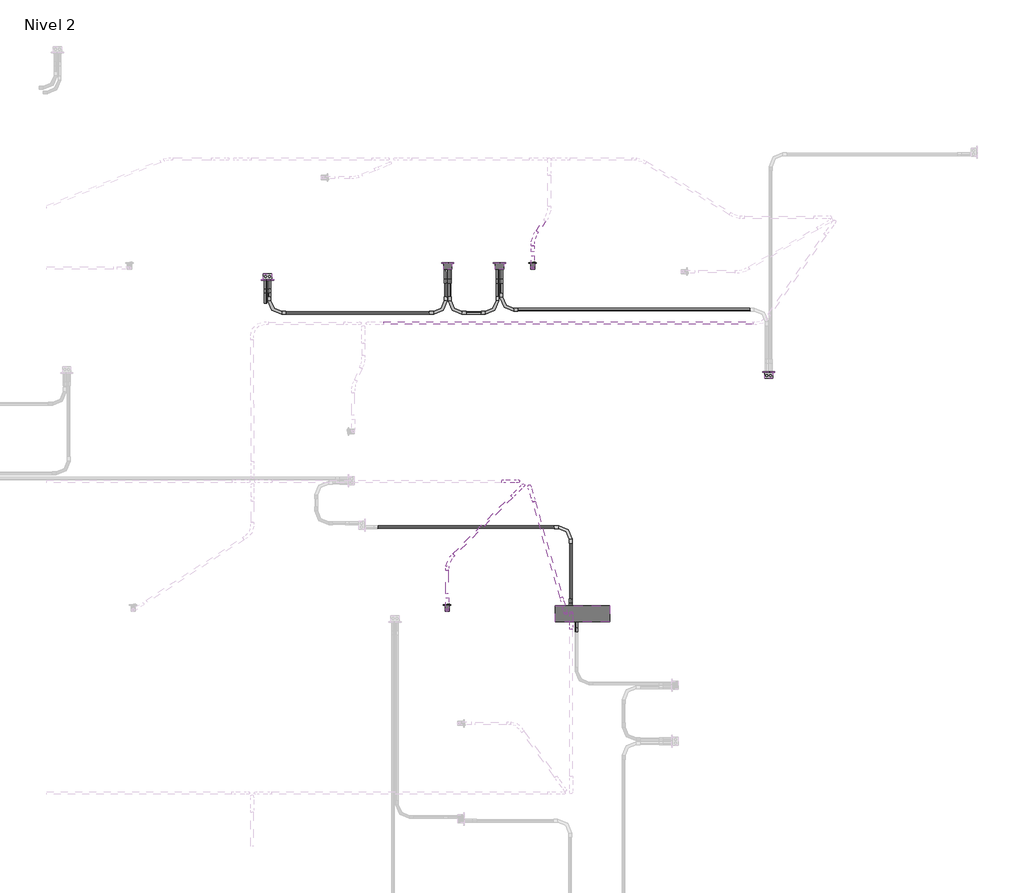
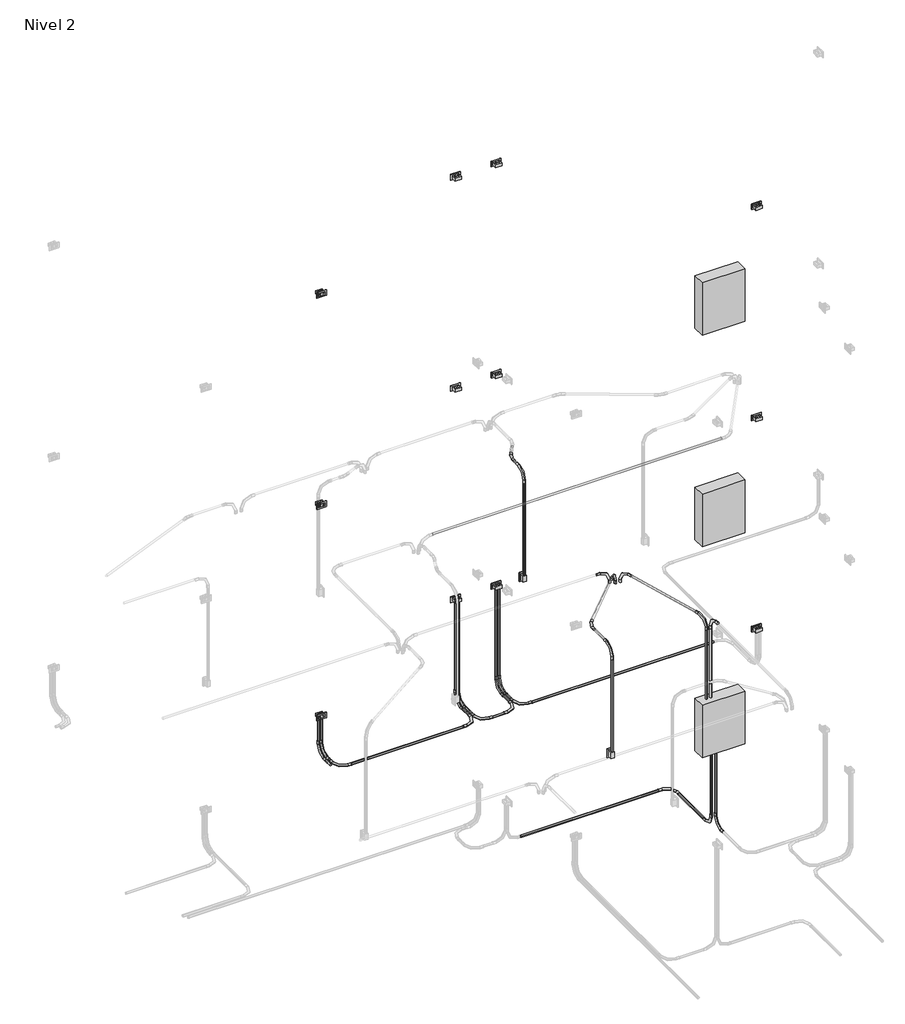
# One storey, part 9 of 10: 29 cable carrier segments, 23 cable carrier fittings, 15 proxies, 2 switching devices.
"""IFC4 building model written with IfcOpenShell, lengths in millimetres."""

from ifc_helpers import new_model, si_unit, point, frame, frame_2d, origin, place, context, project, spatial, circle_curve, trimmed, segment, composite_curve, outline, extrude, transform, mapped, element, save
from components import proxy_125_a_fe578df2, gfci_180f1b41, m_codo_de_tubo_extremo_liso_pvc_9da73e12, m_codo_de_tubo_extremo_liso_pvc_102f0f41, m_codo_de_tubo_extremo_liso_pvc_59586aee, m_codo_de_tubo_extremo_liso_pvc_8d6d9c39, switching_device_22fed34b

model = new_model("IFC4")

# Units and contexts
model_context = context("Model", 3, world=origin())
ifc_project = project(units=[si_unit("LENGTHUNIT", "METRE", prefix="MILLI")], contexts=[model_context])

# Site, building, storey
site = spatial("IfcSite", under=ifc_project)
building = spatial("IfcBuilding", under=site)
storey = spatial("IfcBuildingStorey", under=building, Name="Nivel 2", Elevation=2800.0)

# Proxies
placement = place(None, origin())
proxy_125_a_shape = proxy_125_a_fe578df2(model_context)
element("IfcBuildingElementProxy", 1, Name="M_Cuadro de control de accesorios e iluminación - 480V MLO : 125 A", ObjectType="M_Cuadro de control de accesorios e iluminación - 480V MLO : 125 A", at=placement, inside=storey, context=model_context, shape_type="MappedRepresentation", body=[
    mapped(proxy_125_a_shape, transform((5479.899386, 12215.0, 3626.1274047), x_axis=(1.0, 0.0, 0.0), y_axis=(0.0, 0.0, 1.0), z_axis=(0.0, -1.0, 0.0))),
])
element("IfcBuildingElementProxy", 2, Name="M_Cuadro de control de accesorios e iluminación - 480V MLO : 125 A", ObjectType="M_Cuadro de control de accesorios e iluminación - 480V MLO : 125 A", at=placement, inside=storey, context=model_context, shape_type="MappedRepresentation", body=[
    mapped(proxy_125_a_shape, transform((5479.899386, 12215.0, 6276.1274047), x_axis=(1.0, 0.0, 0.0), y_axis=(0.0, 0.0, 1.0), z_axis=(0.0, -1.0, 0.0))),
])
element("IfcBuildingElementProxy", 3, Name="M_Cuadro de control de accesorios e iluminación - 480V MLO : 125 A", ObjectType="M_Cuadro de control de accesorios e iluminación - 480V MLO : 125 A", at=placement, inside=storey, context=model_context, shape_type="MappedRepresentation", body=[
    mapped(proxy_125_a_shape, transform((5479.899386, 12215.0, 8926.1274047), x_axis=(1.0, 0.0, 0.0), y_axis=(0.0, 0.0, 1.0), z_axis=(0.0, -1.0, 0.0))),
])
gfci_shape = gfci_180f1b41(model_context)
element("IfcBuildingElementProxy", 4, Name="Tomacorriente doble 220V : GFCI", ObjectType="Tomacorriente doble 220V : GFCI", at=placement, inside=storey, context=model_context, shape_type="MappedRepresentation", body=[
    mapped(gfci_shape, transform((2544.4609897, 15400.0, 3200.0), x_axis=(0.0, 0.0, 1.0), y_axis=(-1.0, 0.0, 0.0), z_axis=(0.0, -1.0, 0.0))),
])
element("IfcBuildingElementProxy", 5, Name="Tomacorriente doble 220V : GFCI", ObjectType="Tomacorriente doble 220V : GFCI", at=placement, inside=storey, context=model_context, shape_type="MappedRepresentation", body=[
    mapped(gfci_shape, transform((4223.0510218, 15550.0, 4000.0), x_axis=(0.0, 0.0, 1.0), y_axis=(1.0, 0.0, 0.0), z_axis=(0.0, 1.0, 0.0))),
])
element("IfcBuildingElementProxy", 6, Name="Tomacorriente doble 220V : GFCI", ObjectType="Tomacorriente doble 220V : GFCI", at=placement, inside=storey, context=model_context, shape_type="MappedRepresentation", body=[
    mapped(gfci_shape, transform((4704.917561, 15550.0, 4000.0), x_axis=(0.0, 0.0, 1.0), y_axis=(1.0, 0.0, 0.0), z_axis=(0.0, 1.0, 0.0))),
])
element("IfcBuildingElementProxy", 7, Name="Tomacorriente doble 220V : GFCI", ObjectType="Tomacorriente doble 220V : GFCI", at=placement, inside=storey, context=model_context, shape_type="MappedRepresentation", body=[
    mapped(gfci_shape, transform((7211.3052002, 14535.0, 3200.0), x_axis=(0.0, 0.0, 1.0), y_axis=(1.0, 0.0, 0.0), z_axis=(0.0, 1.0, 0.0))),
])
element("IfcBuildingElementProxy", 8, Name="Tomacorriente doble 220V : GFCI", ObjectType="Tomacorriente doble 220V : GFCI", at=placement, inside=storey, context=model_context, shape_type="MappedRepresentation", body=[
    mapped(gfci_shape, transform((2544.4609897, 15400.0, 5850.0), x_axis=(0.0, 0.0, 1.0), y_axis=(-1.0, 0.0, 0.0), z_axis=(0.0, -1.0, 0.0))),
])
element("IfcBuildingElementProxy", 9, Name="Tomacorriente doble 220V : GFCI", ObjectType="Tomacorriente doble 220V : GFCI", at=placement, inside=storey, context=model_context, shape_type="MappedRepresentation", body=[
    mapped(gfci_shape, transform((4223.0510218, 15550.0, 6650.0), x_axis=(0.0, 0.0, 1.0), y_axis=(1.0, 0.0, 0.0), z_axis=(0.0, 1.0, 0.0))),
])
element("IfcBuildingElementProxy", 10, Name="Tomacorriente doble 220V : GFCI", ObjectType="Tomacorriente doble 220V : GFCI", at=placement, inside=storey, context=model_context, shape_type="MappedRepresentation", body=[
    mapped(gfci_shape, transform((4704.917561, 15550.0, 6650.0), x_axis=(0.0, 0.0, 1.0), y_axis=(1.0, 0.0, 0.0), z_axis=(0.0, 1.0, 0.0))),
])
element("IfcBuildingElementProxy", 11, Name="Tomacorriente doble 220V : GFCI", ObjectType="Tomacorriente doble 220V : GFCI", at=placement, inside=storey, context=model_context, shape_type="MappedRepresentation", body=[
    mapped(gfci_shape, transform((7211.3052002, 14535.0, 5850.0), x_axis=(0.0, 0.0, 1.0), y_axis=(1.0, 0.0, 0.0), z_axis=(0.0, 1.0, 0.0))),
])
element("IfcBuildingElementProxy", 12, Name="Tomacorriente doble 220V : GFCI", ObjectType="Tomacorriente doble 220V : GFCI", at=placement, inside=storey, context=model_context, shape_type="MappedRepresentation", body=[
    mapped(gfci_shape, transform((2544.4609897, 15400.0, 8500.0), x_axis=(0.0, 0.0, 1.0), y_axis=(-1.0, 0.0, 0.0), z_axis=(0.0, -1.0, 0.0))),
])
element("IfcBuildingElementProxy", 13, Name="Tomacorriente doble 220V : GFCI", ObjectType="Tomacorriente doble 220V : GFCI", at=placement, inside=storey, context=model_context, shape_type="MappedRepresentation", body=[
    mapped(gfci_shape, transform((4223.0510218, 15550.0, 9300.0), x_axis=(0.0, 0.0, 1.0), y_axis=(1.0, 0.0, 0.0), z_axis=(0.0, 1.0, 0.0))),
])
element("IfcBuildingElementProxy", 14, Name="Tomacorriente doble 220V : GFCI", ObjectType="Tomacorriente doble 220V : GFCI", at=placement, inside=storey, context=model_context, shape_type="MappedRepresentation", body=[
    mapped(gfci_shape, transform((4704.917561, 15550.0, 9300.0), x_axis=(0.0, 0.0, 1.0), y_axis=(1.0, 0.0, 0.0), z_axis=(0.0, 1.0, 0.0))),
])
element("IfcBuildingElementProxy", 15, Name="Tomacorriente doble 220V : GFCI", ObjectType="Tomacorriente doble 220V : GFCI", at=placement, inside=storey, context=model_context, shape_type="MappedRepresentation", body=[
    mapped(gfci_shape, transform((7211.3052002, 14535.0, 8500.0), x_axis=(0.0, 0.0, 1.0), y_axis=(1.0, 0.0, 0.0), z_axis=(0.0, 1.0, 0.0))),
])

# Cable carrier fittings
m_codo_de_tubo_extremo_liso_pvc_shape = m_codo_de_tubo_extremo_liso_pvc_9da73e12(model_context)
element("IfcCableCarrierFitting", 16, ObjectType="M_Codo de tubo - Extremo liso - PVC : CODO POTENCIA", at=placement, inside=storey, context=model_context, shape_type="MappedRepresentation", body=[
    mapped(m_codo_de_tubo_extremo_liso_pvc_shape, transform((4205.019202, 15520.3628882, 2730.0), x_axis=(0.0, 0.0, -1.0), y_axis=(0.0, -1.0, 0.0), z_axis=(-1.0, 0.0, 0.0))),
])
element("IfcCableCarrierFitting", 17, ObjectType="M_Codo de tubo - Extremo liso - PVC : CODO POTENCIA", at=placement, inside=storey, context=model_context, shape_type="MappedRepresentation", body=[
    mapped(m_codo_de_tubo_extremo_liso_pvc_shape, transform((4241.0828417, 15520.3628882, 2730.0), x_axis=(0.0, 0.0, -1.0), y_axis=(0.0, -1.0, 0.0), z_axis=(-1.0, 0.0, 0.0))),
])
element("IfcCableCarrierFitting", 18, ObjectType="M_Codo de tubo - Extremo liso - PVC : CODO POTENCIA", at=placement, inside=storey, context=model_context, shape_type="MappedRepresentation", body=[
    mapped(m_codo_de_tubo_extremo_liso_pvc_shape, transform((4686.8857412, 15520.3628882, 2730.0), x_axis=(0.0, 0.0, -1.0), y_axis=(0.0, -1.0, 0.0), z_axis=(-1.0, 0.0, 0.0))),
])
element("IfcCableCarrierFitting", 19, ObjectType="M_Codo de tubo - Extremo liso - PVC : CODO POTENCIA", at=placement, inside=storey, context=model_context, shape_type="MappedRepresentation", body=[
    mapped(m_codo_de_tubo_extremo_liso_pvc_shape, transform((4722.9493809, 15520.3628882, 2730.0), x_axis=(0.0, 0.0, -1.0), y_axis=(0.0, -1.0, 0.0), z_axis=(-1.0, 0.0, 0.0))),
])
element("IfcCableCarrierFitting", 20, ObjectType="M_Codo de tubo - Extremo liso - PVC : CODO POTENCIA", at=placement, inside=storey, context=model_context, shape_type="MappedRepresentation", body=[
    mapped(m_codo_de_tubo_extremo_liso_pvc_shape, transform((2562.4928095, 15429.6371118, 2730.0), x_axis=(0.0, 0.0, -1.0), y_axis=(0.0, -1.0, 0.0), z_axis=(-1.0, 0.0, 0.0))),
])
element("IfcCableCarrierFitting", 21, ObjectType="M_Codo de tubo - Extremo liso - PVC : CODO POTENCIA", at=placement, inside=storey, context=model_context, shape_type="MappedRepresentation", body=[
    mapped(m_codo_de_tubo_extremo_liso_pvc_shape, transform((2526.4291699, 15429.6371118, 2730.0), x_axis=(0.0, 0.0, -1.0), y_axis=(0.0, -1.0, 0.0), z_axis=(-1.0, 0.0, 0.0))),
])
element("IfcCableCarrierFitting", 22, ObjectType="M_Codo de tubo - Extremo liso - PVC : CODO POTENCIA", at=placement, inside=storey, context=model_context, shape_type="MappedRepresentation", body=[
    mapped(m_codo_de_tubo_extremo_liso_pvc_shape, transform((4205.019202, 15089.6371118, 2730.0), x_axis=(1.0, 0.0, 0.0), y_axis=(0.0, 1.0, 0.0), z_axis=(0.0, 0.0, 1.0))),
])
element("IfcCableCarrierFitting", 23, ObjectType="M_Codo de tubo - Extremo liso - PVC : CODO POTENCIA", at=placement, inside=storey, context=model_context, shape_type="MappedRepresentation", body=[
    mapped(m_codo_de_tubo_extremo_liso_pvc_shape, transform((2562.4928095, 15089.6371118, 2730.0), x_axis=(0.0, -1.0, 0.0), y_axis=(1.0, 0.0, 0.0), z_axis=(0.0, 0.0, 1.0))),
])
element("IfcCableCarrierFitting", 24, ObjectType="M_Codo de tubo - Extremo liso - PVC : CODO POTENCIA", at=placement, inside=storey, context=model_context, shape_type="MappedRepresentation", body=[
    mapped(m_codo_de_tubo_extremo_liso_pvc_shape, transform((4686.8857412, 15089.6371118, 2730.0), x_axis=(1.0, 0.0, 0.0), y_axis=(0.0, 1.0, 0.0), z_axis=(0.0, 0.0, 1.0))),
])
element("IfcCableCarrierFitting", 25, ObjectType="M_Codo de tubo - Extremo liso - PVC : CODO POTENCIA", at=placement, inside=storey, context=model_context, shape_type="MappedRepresentation", body=[
    mapped(m_codo_de_tubo_extremo_liso_pvc_shape, transform((4241.0828417, 15089.6371118, 2730.0), x_axis=(0.0, -1.0, 0.0), y_axis=(1.0, 0.0, 0.0), z_axis=(0.0, 0.0, 1.0))),
])
element("IfcCableCarrierFitting", 26, ObjectType="M_Codo de tubo - Extremo liso - PVC : CODO POTENCIA", at=placement, inside=storey, context=model_context, shape_type="MappedRepresentation", body=[
    mapped(m_codo_de_tubo_extremo_liso_pvc_shape, transform((4722.9493809, 15120.3628882, 2730.0), x_axis=(0.0, -1.0, 0.0), y_axis=(1.0, 0.0, 0.0), z_axis=(0.0, 0.0, 1.0))),
])
element("IfcCableCarrierFitting", 27, ObjectType="M_Codo de tubo - Extremo liso - PVC : CODO POTENCIA", at=placement, inside=storey, context=model_context, shape_type="MappedRepresentation", body=[
    mapped(m_codo_de_tubo_extremo_liso_pvc_shape, transform((5369.121413, 13095.2791789, 2730.0), x_axis=(0.0, 1.0, 0.0), y_axis=(-1.0, 0.0, 0.0), z_axis=(0.0, 0.0, 1.0))),
])
element("IfcCableCarrierFitting", 28, ObjectType="M_Codo de tubo - Extremo liso - PVC : CODO POTENCIA", at=placement, inside=storey, context=model_context, shape_type="MappedRepresentation", body=[
    mapped(m_codo_de_tubo_extremo_liso_pvc_shape, transform((5369.121413, 12274.3432469, 2730.0), x_axis=(0.0, -1.0, 0.0), y_axis=(0.0, 0.0, 1.0), z_axis=(-1.0, 0.0, 0.0))),
])
element("IfcCableCarrierFitting", 29, ObjectType="M_Codo de tubo - Extremo liso - PVC : CODO POTENCIA", at=placement, inside=storey, context=model_context, shape_type="MappedRepresentation", body=[
    mapped(m_codo_de_tubo_extremo_liso_pvc_shape, transform((5421.447338, 12274.3432469, 2730.0), x_axis=(0.0, 1.0, 0.0), y_axis=(0.0, 0.0, 1.0), z_axis=(1.0, 0.0, 0.0))),
])
element("IfcCableCarrierFitting", 30, ObjectType="M_Codo de tubo - Extremo liso - PVC : CODO ILUMINACION", at=placement, inside=storey, context=model_context, shape_type="MappedRepresentation", body=[
    mapped(m_codo_de_tubo_extremo_liso_pvc_shape, transform((5014.6923036, 15506.8611243, 5350.0), x_axis=(0.0, 0.0, 1.0), y_axis=(0.0, 1.0, 0.0), z_axis=(-1.0, 0.0, 0.0))),
])
element("IfcCableCarrierFitting", 31, ObjectType="M_Codo de tubo - Extremo liso - PVC : CODO ILUMINACION", at=placement, inside=storey, context=model_context, shape_type="MappedRepresentation", body=[
    mapped(m_codo_de_tubo_extremo_liso_pvc_shape, transform((4983.2376641, 13478.0991033, 5350.0), x_axis=(-0.27563735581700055, 0.9612616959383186, 0.0), y_axis=(0.0, 0.0, -1.0000000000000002), z_axis=(-0.9612616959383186, -0.27563735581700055, 0.0))),
])
element("IfcCableCarrierFitting", 32, ObjectType="M_Codo de tubo - Extremo liso - PVC : CODO ILUMINACION", at=placement, inside=storey, context=model_context, shape_type="MappedRepresentation", body=[
    mapped(m_codo_de_tubo_extremo_liso_pvc_shape, transform((4926.5703208, 13485.4270766, 5350.0), x_axis=(0.7071067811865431, 0.707106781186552, 0.0), y_axis=(0.0, 0.0, -1.0), z_axis=(-0.707106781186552, 0.7071067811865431, 0.0))),
])
element("IfcCableCarrierFitting", 33, ObjectType="M_Codo de tubo - Extremo liso - PVC : CODO ILUMINACION", at=placement, inside=storey, context=model_context, shape_type="MappedRepresentation", body=[
    mapped(m_codo_de_tubo_extremo_liso_pvc_shape, transform((5322.9331414, 12293.4401892, 5350.0), x_axis=(0.2756373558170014, -0.9612616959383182, 0.0), y_axis=(0.0, 0.0, -1.0), z_axis=(0.9612616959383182, 0.2756373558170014, 0.0))),
])
element("IfcCableCarrierFitting", 34, ObjectType="M_Codo de tubo - Extremo liso - PVC : CODO ILUMINACION", at=placement, inside=storey, context=model_context, shape_type="MappedRepresentation", body=[
    mapped(m_codo_de_tubo_extremo_liso_pvc_shape, transform((4218.3978911, 12321.8611243, 5350.0), x_axis=(0.0, 0.0, 1.0), y_axis=(0.0, 1.0, 0.0), z_axis=(-1.0, 0.0, 0.0))),
])
element("IfcCableCarrierFitting", 35, ObjectType="M_Codo de tubo - Extremo liso - PVC : CODO ILUMINACION", at=placement, inside=storey, context=model_context, shape_type="MappedRepresentation", body=[
    mapped(m_codo_de_tubo_extremo_liso_pvc_shape, transform((5372.6243482, 12295.9653349, 5350.0), x_axis=(0.0, 1.0, 0.0), y_axis=(0.0, 0.0, -1.0), z_axis=(-1.0, 0.0, 0.0))),
])
m_codo_de_tubo_extremo_liso_pvc_2_shape = m_codo_de_tubo_extremo_liso_pvc_102f0f41(model_context)
element("IfcCableCarrierFitting", 36, ObjectType="M_Codo de tubo - Extremo liso - PVC : CODO ILUMINACION", at=placement, inside=storey, context=model_context, shape_type="MappedRepresentation", body=[
    mapped(m_codo_de_tubo_extremo_liso_pvc_2_shape, transform((4879.8406576, 13521.2601744, 5350.0), x_axis=(1.0, 0.0, 0.0), y_axis=(0.0, 0.0, 1.0), z_axis=(0.0, -1.0, 0.0))),
])
m_codo_de_tubo_extremo_liso_pvc_3_shape = m_codo_de_tubo_extremo_liso_pvc_59586aee(model_context)
element("IfcCableCarrierFitting", 37, ObjectType="M_Codo de tubo - Extremo liso - PVC : CODO ILUMINACION", at=placement, inside=storey, context=model_context, shape_type="MappedRepresentation", body=[
    mapped(m_codo_de_tubo_extremo_liso_pvc_3_shape, transform((5014.6923036, 15786.8611243, 5350.0), x_axis=(-0.5679095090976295, -0.8230909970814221, 0.0), y_axis=(0.8230909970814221, -0.5679095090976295, 0.0), z_axis=(0.0, 0.0, 1.0))),
])
m_codo_de_tubo_extremo_liso_pvc_4_shape = m_codo_de_tubo_extremo_liso_pvc_8d6d9c39(model_context)
element("IfcCableCarrierFitting", 38, ObjectType="M_Codo de tubo - Extremo liso - PVC : CODO ILUMINACION", at=placement, inside=storey, context=model_context, shape_type="MappedRepresentation", body=[
    mapped(m_codo_de_tubo_extremo_liso_pvc_4_shape, transform((4218.3978911, 12777.2546469, 5350.0), x_axis=(-0.7071067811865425, -0.7071067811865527, 0.0), y_axis=(0.7071067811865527, -0.7071067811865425, 0.0), z_axis=(0.0, 0.0, 1.0))),
])

# Cable carrier segments
element("IfcCableCarrierSegment", 39, ObjectType="PVC-SEL, POTENCIA", at=placement, inside=storey, context=model_context, shape_type="SweptSolid", body=[
    extrude(outline(composite_curve([segment(trimmed(circle_curve(frame_2d((2730.0, 4205.019202)), 11.71), [point((2730.0, 4193.309202))], [point((2718.29, 4205.019202))], False, "CARTESIAN"), True, "CONTINUOUS"), segment(trimmed(circle_curve(frame_2d((2730.0, 4205.019202)), 11.71), [point((2718.29, 4205.019202))], [point((2730.0, 4216.729202))], False, "CARTESIAN"), True, "CONTINUOUS"), segment(trimmed(circle_curve(frame_2d((2730.0, 4205.019202)), 11.71), [point((2730.0, 4216.729202))], [point((2741.71, 4205.019202))], False, "CARTESIAN"), True, "CONTINUOUS"), segment(trimmed(circle_curve(frame_2d((2730.0, 4205.019202)), 11.71), [point((2741.71, 4205.019202))], [point((2730.0, 4193.309202))], False, "CARTESIAN"), True, "CONTINUOUS")], self_intersect=False)), frame((0.0, 15242.0371118, 0.0), z_axis=(0.0, 1.0, 0.0), x_axis=(0.0, 0.0, 1.0)), (0.0, 0.0, 1.0), 125.9257764),
])
element("IfcCableCarrierSegment", 40, ObjectType="PVC-SEL, POTENCIA", at=placement, inside=storey, context=model_context, shape_type="SweptSolid", body=[
    extrude(outline(composite_curve([segment(trimmed(circle_curve(frame_2d((4205.019202, 15520.3628882)), 11.71), [point((4216.729202, 15520.3628882))], [point((4205.019202, 15508.6528882))], False, "CARTESIAN"), True, "CONTINUOUS"), segment(trimmed(circle_curve(frame_2d((4205.019202, 15520.3628882)), 11.71), [point((4205.019202, 15508.6528882))], [point((4193.309202, 15520.3628882))], False, "CARTESIAN"), True, "CONTINUOUS"), segment(trimmed(circle_curve(frame_2d((4205.019202, 15520.3628882)), 11.71), [point((4193.309202, 15520.3628882))], [point((4205.019202, 15532.0728882))], False, "CARTESIAN"), True, "CONTINUOUS"), segment(trimmed(circle_curve(frame_2d((4205.019202, 15520.3628882)), 11.71), [point((4205.019202, 15532.0728882))], [point((4216.729202, 15520.3628882))], False, "CARTESIAN"), True, "CONTINUOUS")], self_intersect=False)), frame((0.0, 0.0, 2882.4), z_axis=(0.0, 0.0, 1.0), x_axis=(1.0, 0.0, 0.0)), (0.0, 0.0, 1.0), 1097.3020537),
])
element("IfcCableCarrierSegment", 41, ObjectType="PVC-SEL, POTENCIA", at=placement, inside=storey, context=model_context, shape_type="SweptSolid", body=[
    extrude(outline(composite_curve([segment(trimmed(circle_curve(frame_2d((2730.0, 4241.0828417)), 11.71), [point((2730.0, 4229.3728417))], [point((2718.29, 4241.0828417))], False, "CARTESIAN"), True, "CONTINUOUS"), segment(trimmed(circle_curve(frame_2d((2730.0, 4241.0828417)), 11.71), [point((2718.29, 4241.0828417))], [point((2730.0, 4252.7928417))], False, "CARTESIAN"), True, "CONTINUOUS"), segment(trimmed(circle_curve(frame_2d((2730.0, 4241.0828417)), 11.71), [point((2730.0, 4252.7928417))], [point((2741.71, 4241.0828417))], False, "CARTESIAN"), True, "CONTINUOUS"), segment(trimmed(circle_curve(frame_2d((2730.0, 4241.0828417)), 11.71), [point((2741.71, 4241.0828417))], [point((2730.0, 4229.3728417))], False, "CARTESIAN"), True, "CONTINUOUS")], self_intersect=False)), frame((0.0, 15242.0371118, 0.0), z_axis=(0.0, 1.0, 0.0), x_axis=(0.0, 0.0, 1.0)), (0.0, 0.0, 1.0), 125.9257764),
])
element("IfcCableCarrierSegment", 42, ObjectType="PVC-SEL, POTENCIA", at=placement, inside=storey, context=model_context, shape_type="SweptSolid", body=[
    extrude(outline(composite_curve([segment(trimmed(circle_curve(frame_2d((4241.0828417, 15520.3628882)), 11.71), [point((4252.7928417, 15520.3628882))], [point((4241.0828417, 15508.6528882))], False, "CARTESIAN"), True, "CONTINUOUS"), segment(trimmed(circle_curve(frame_2d((4241.0828417, 15520.3628882)), 11.71), [point((4241.0828417, 15508.6528882))], [point((4229.3728417, 15520.3628882))], False, "CARTESIAN"), True, "CONTINUOUS"), segment(trimmed(circle_curve(frame_2d((4241.0828417, 15520.3628882)), 11.71), [point((4229.3728417, 15520.3628882))], [point((4241.0828417, 15532.0728882))], False, "CARTESIAN"), True, "CONTINUOUS"), segment(trimmed(circle_curve(frame_2d((4241.0828417, 15520.3628882)), 11.71), [point((4241.0828417, 15532.0728882))], [point((4252.7928417, 15520.3628882))], False, "CARTESIAN"), True, "CONTINUOUS")], self_intersect=False)), frame((0.0, 0.0, 2882.4), z_axis=(0.0, 0.0, 1.0), x_axis=(1.0, 0.0, 0.0)), (0.0, 0.0, 1.0), 1097.3020537),
])
element("IfcCableCarrierSegment", 43, ObjectType="PVC-SEL, POTENCIA", at=placement, inside=storey, context=model_context, shape_type="SweptSolid", body=[
    extrude(outline(composite_curve([segment(trimmed(circle_curve(frame_2d((2730.0, 4686.8857412)), 11.71), [point((2730.0, 4675.1757412))], [point((2718.29, 4686.8857412))], False, "CARTESIAN"), True, "CONTINUOUS"), segment(trimmed(circle_curve(frame_2d((2730.0, 4686.8857412)), 11.71), [point((2718.29, 4686.8857412))], [point((2730.0, 4698.5957412))], False, "CARTESIAN"), True, "CONTINUOUS"), segment(trimmed(circle_curve(frame_2d((2730.0, 4686.8857412)), 11.71), [point((2730.0, 4698.5957412))], [point((2741.71, 4686.8857412))], False, "CARTESIAN"), True, "CONTINUOUS"), segment(trimmed(circle_curve(frame_2d((2730.0, 4686.8857412)), 11.71), [point((2741.71, 4686.8857412))], [point((2730.0, 4675.1757412))], False, "CARTESIAN"), True, "CONTINUOUS")], self_intersect=False)), frame((0.0, 15242.0371118, 0.0), z_axis=(0.0, 1.0, 0.0), x_axis=(0.0, 0.0, 1.0)), (0.0, 0.0, 1.0), 125.9257764),
])
element("IfcCableCarrierSegment", 44, ObjectType="PVC-SEL, POTENCIA", at=placement, inside=storey, context=model_context, shape_type="SweptSolid", body=[
    extrude(outline(composite_curve([segment(trimmed(circle_curve(frame_2d((4686.8857412, 15520.3628882)), 11.71), [point((4698.5957412, 15520.3628882))], [point((4686.8857412, 15508.6528882))], False, "CARTESIAN"), True, "CONTINUOUS"), segment(trimmed(circle_curve(frame_2d((4686.8857412, 15520.3628882)), 11.71), [point((4686.8857412, 15508.6528882))], [point((4675.1757412, 15520.3628882))], False, "CARTESIAN"), True, "CONTINUOUS"), segment(trimmed(circle_curve(frame_2d((4686.8857412, 15520.3628882)), 11.71), [point((4675.1757412, 15520.3628882))], [point((4686.8857412, 15532.0728882))], False, "CARTESIAN"), True, "CONTINUOUS"), segment(trimmed(circle_curve(frame_2d((4686.8857412, 15520.3628882)), 11.71), [point((4686.8857412, 15532.0728882))], [point((4698.5957412, 15520.3628882))], False, "CARTESIAN"), True, "CONTINUOUS")], self_intersect=False)), frame((0.0, 0.0, 2882.4), z_axis=(0.0, 0.0, 1.0), x_axis=(1.0, 0.0, 0.0)), (0.0, 0.0, 1.0), 1097.3020537),
])
element("IfcCableCarrierSegment", 45, ObjectType="PVC-SEL, POTENCIA", at=placement, inside=storey, context=model_context, shape_type="SweptSolid", body=[
    extrude(outline(composite_curve([segment(trimmed(circle_curve(frame_2d((2730.0, 4722.9493809)), 11.71), [point((2730.0, 4711.2393809))], [point((2718.29, 4722.9493809))], False, "CARTESIAN"), True, "CONTINUOUS"), segment(trimmed(circle_curve(frame_2d((2730.0, 4722.9493809)), 11.71), [point((2718.29, 4722.9493809))], [point((2730.0, 4734.6593809))], False, "CARTESIAN"), True, "CONTINUOUS"), segment(trimmed(circle_curve(frame_2d((2730.0, 4722.9493809)), 11.71), [point((2730.0, 4734.6593809))], [point((2741.71, 4722.9493809))], False, "CARTESIAN"), True, "CONTINUOUS"), segment(trimmed(circle_curve(frame_2d((2730.0, 4722.9493809)), 11.71), [point((2741.71, 4722.9493809))], [point((2730.0, 4711.2393809))], False, "CARTESIAN"), True, "CONTINUOUS")], self_intersect=False)), frame((0.0, 15272.7628882, 0.0), z_axis=(0.0, 1.0, 0.0), x_axis=(0.0, 0.0, 1.0)), (0.0, 0.0, 1.0), 95.2),
])
element("IfcCableCarrierSegment", 46, ObjectType="PVC-SEL, POTENCIA", at=placement, inside=storey, context=model_context, shape_type="SweptSolid", body=[
    extrude(outline(composite_curve([segment(trimmed(circle_curve(frame_2d((4722.9493809, 15520.3628882)), 11.71), [point((4734.6593809, 15520.3628882))], [point((4722.9493809, 15508.6528882))], False, "CARTESIAN"), True, "CONTINUOUS"), segment(trimmed(circle_curve(frame_2d((4722.9493809, 15520.3628882)), 11.71), [point((4722.9493809, 15508.6528882))], [point((4711.2393809, 15520.3628882))], False, "CARTESIAN"), True, "CONTINUOUS"), segment(trimmed(circle_curve(frame_2d((4722.9493809, 15520.3628882)), 11.71), [point((4711.2393809, 15520.3628882))], [point((4722.9493809, 15532.0728882))], False, "CARTESIAN"), True, "CONTINUOUS"), segment(trimmed(circle_curve(frame_2d((4722.9493809, 15520.3628882)), 11.71), [point((4722.9493809, 15532.0728882))], [point((4734.6593809, 15520.3628882))], False, "CARTESIAN"), True, "CONTINUOUS")], self_intersect=False)), frame((0.0, 0.0, 2882.4), z_axis=(0.0, 0.0, 1.0), x_axis=(1.0, 0.0, 0.0)), (0.0, 0.0, 1.0), 1097.3020537),
])
element("IfcCableCarrierSegment", 47, ObjectType="PVC-SEL, POTENCIA", at=placement, inside=storey, context=model_context, shape_type="SweptSolid", body=[
    extrude(outline(composite_curve([segment(trimmed(circle_curve(frame_2d((2730.0, 2562.4928095)), 11.71), [point((2730.0, 2550.7828095))], [point((2718.29, 2562.4928095))], False, "CARTESIAN"), True, "CONTINUOUS"), segment(trimmed(circle_curve(frame_2d((2730.0, 2562.4928095)), 11.71), [point((2718.29, 2562.4928095))], [point((2730.0, 2574.2028095))], False, "CARTESIAN"), True, "CONTINUOUS"), segment(trimmed(circle_curve(frame_2d((2730.0, 2562.4928095)), 11.71), [point((2730.0, 2574.2028095))], [point((2741.71, 2562.4928095))], False, "CARTESIAN"), True, "CONTINUOUS"), segment(trimmed(circle_curve(frame_2d((2730.0, 2562.4928095)), 11.71), [point((2741.71, 2562.4928095))], [point((2730.0, 2550.7828095))], False, "CARTESIAN"), True, "CONTINUOUS")], self_intersect=False)), frame((0.0, 15242.0371118, 0.0), z_axis=(0.0, 1.0, 0.0), x_axis=(0.0, 0.0, 1.0)), (0.0, 0.0, 1.0), 35.2),
])
element("IfcCableCarrierSegment", 48, ObjectType="PVC-SEL, POTENCIA", at=placement, inside=storey, context=model_context, shape_type="SweptSolid", body=[
    extrude(outline(composite_curve([segment(trimmed(circle_curve(frame_2d((2562.4928095, 15429.6371118)), 11.71), [point((2574.2028095, 15429.6371118))], [point((2562.4928095, 15417.9271118))], False, "CARTESIAN"), True, "CONTINUOUS"), segment(trimmed(circle_curve(frame_2d((2562.4928095, 15429.6371118)), 11.71), [point((2562.4928095, 15417.9271118))], [point((2550.7828095, 15429.6371118))], False, "CARTESIAN"), True, "CONTINUOUS"), segment(trimmed(circle_curve(frame_2d((2562.4928095, 15429.6371118)), 11.71), [point((2550.7828095, 15429.6371118))], [point((2562.4928095, 15441.3471118))], False, "CARTESIAN"), True, "CONTINUOUS"), segment(trimmed(circle_curve(frame_2d((2562.4928095, 15429.6371118)), 11.71), [point((2562.4928095, 15441.3471118))], [point((2574.2028095, 15429.6371118))], False, "CARTESIAN"), True, "CONTINUOUS")], self_intersect=False)), frame((0.0, 0.0, 2882.4), z_axis=(0.0, 0.0, 1.0), x_axis=(1.0, 0.0, 0.0)), (0.0, 0.0, 1.0), 297.3020537),
])
element("IfcCableCarrierSegment", 49, ObjectType="PVC-SEL, POTENCIA", at=placement, inside=storey, context=model_context, shape_type="SweptSolid", body=[
    extrude(outline(composite_curve([segment(trimmed(circle_curve(frame_2d((2730.0, 2526.4291699)), 11.71), [point((2730.0, 2514.7191699))], [point((2718.29, 2526.4291699))], False, "CARTESIAN"), True, "CONTINUOUS"), segment(trimmed(circle_curve(frame_2d((2730.0, 2526.4291699)), 11.71), [point((2718.29, 2526.4291699))], [point((2730.0, 2538.1391699))], False, "CARTESIAN"), True, "CONTINUOUS"), segment(trimmed(circle_curve(frame_2d((2730.0, 2526.4291699)), 11.71), [point((2730.0, 2538.1391699))], [point((2741.71, 2526.4291699))], False, "CARTESIAN"), True, "CONTINUOUS"), segment(trimmed(circle_curve(frame_2d((2730.0, 2526.4291699)), 11.71), [point((2741.71, 2526.4291699))], [point((2730.0, 2514.7191699))], False, "CARTESIAN"), True, "CONTINUOUS")], self_intersect=False)), frame((0.0, 15179.6371118, 0.0), z_axis=(0.0, 1.0, 0.0), x_axis=(0.0, 0.0, 1.0)), (0.0, 0.0, 1.0), 97.6),
])
element("IfcCableCarrierSegment", 50, ObjectType="PVC-SEL, POTENCIA", at=placement, inside=storey, context=model_context, shape_type="SweptSolid", body=[
    extrude(outline(composite_curve([segment(trimmed(circle_curve(frame_2d((2526.4291699, 15429.6371118)), 11.71), [point((2538.1391699, 15429.6371118))], [point((2526.4291699, 15417.9271118))], False, "CARTESIAN"), True, "CONTINUOUS"), segment(trimmed(circle_curve(frame_2d((2526.4291699, 15429.6371118)), 11.71), [point((2526.4291699, 15417.9271118))], [point((2514.7191699, 15429.6371118))], False, "CARTESIAN"), True, "CONTINUOUS"), segment(trimmed(circle_curve(frame_2d((2526.4291699, 15429.6371118)), 11.71), [point((2514.7191699, 15429.6371118))], [point((2526.4291699, 15441.3471118))], False, "CARTESIAN"), True, "CONTINUOUS"), segment(trimmed(circle_curve(frame_2d((2526.4291699, 15429.6371118)), 11.71), [point((2526.4291699, 15441.3471118))], [point((2538.1391699, 15429.6371118))], False, "CARTESIAN"), True, "CONTINUOUS")], self_intersect=False)), frame((0.0, 0.0, 2882.4), z_axis=(0.0, 0.0, 1.0), x_axis=(1.0, 0.0, 0.0)), (0.0, 0.0, 1.0), 297.3020537),
])
element("IfcCableCarrierSegment", 51, ObjectType="PVC-SEL, POTENCIA", at=placement, inside=storey, context=model_context, shape_type="SweptSolid", body=[
    extrude(outline(composite_curve([segment(trimmed(circle_curve(frame_2d((15089.6371118, 2730.0)), 11.71), [point((15101.3471118, 2730.0))], [point((15089.6371118, 2718.29))], False, "CARTESIAN"), True, "CONTINUOUS"), segment(trimmed(circle_curve(frame_2d((15089.6371118, 2730.0)), 11.71), [point((15089.6371118, 2718.29))], [point((15077.9271118, 2730.0))], False, "CARTESIAN"), True, "CONTINUOUS"), segment(trimmed(circle_curve(frame_2d((15089.6371118, 2730.0)), 11.71), [point((15077.9271118, 2730.0))], [point((15089.6371118, 2741.71))], False, "CARTESIAN"), True, "CONTINUOUS"), segment(trimmed(circle_curve(frame_2d((15089.6371118, 2730.0)), 11.71), [point((15089.6371118, 2741.71))], [point((15101.3471118, 2730.0))], False, "CARTESIAN"), True, "CONTINUOUS")], self_intersect=False)), frame((2714.8928095, 0.0, 0.0), z_axis=(1.0, 0.0, 0.0), x_axis=(0.0, 1.0, 0.0)), (0.0, 0.0, 1.0), 1337.7263925),
])
element("IfcCableCarrierSegment", 52, ObjectType="PVC-SEL, POTENCIA", at=placement, inside=storey, context=model_context, shape_type="SweptSolid", body=[
    extrude(outline(composite_curve([segment(trimmed(circle_curve(frame_2d((15089.6371118, 2730.0)), 11.71), [point((15101.3471118, 2730.0))], [point((15089.6371118, 2718.29))], False, "CARTESIAN"), True, "CONTINUOUS"), segment(trimmed(circle_curve(frame_2d((15089.6371118, 2730.0)), 11.71), [point((15089.6371118, 2718.29))], [point((15077.9271118, 2730.0))], False, "CARTESIAN"), True, "CONTINUOUS"), segment(trimmed(circle_curve(frame_2d((15089.6371118, 2730.0)), 11.71), [point((15077.9271118, 2730.0))], [point((15089.6371118, 2741.71))], False, "CARTESIAN"), True, "CONTINUOUS"), segment(trimmed(circle_curve(frame_2d((15089.6371118, 2730.0)), 11.71), [point((15089.6371118, 2741.71))], [point((15101.3471118, 2730.0))], False, "CARTESIAN"), True, "CONTINUOUS")], self_intersect=False)), frame((4393.4828417, 0.0, 0.0), z_axis=(1.0, 0.0, 0.0), x_axis=(0.0, 1.0, 0.0)), (0.0, 0.0, 1.0), 141.0028996),
])
element("IfcCableCarrierSegment", 53, ObjectType="PVC-SEL, POTENCIA", at=placement, inside=storey, context=model_context, shape_type="SweptSolid", body=[
    extrude(outline(composite_curve([segment(trimmed(circle_curve(frame_2d((15120.3628882, 2730.0)), 11.71), [point((15132.0728882, 2730.0))], [point((15120.3628882, 2718.29))], False, "CARTESIAN"), True, "CONTINUOUS"), segment(trimmed(circle_curve(frame_2d((15120.3628882, 2730.0)), 11.71), [point((15120.3628882, 2718.29))], [point((15108.6528882, 2730.0))], False, "CARTESIAN"), True, "CONTINUOUS"), segment(trimmed(circle_curve(frame_2d((15120.3628882, 2730.0)), 11.71), [point((15108.6528882, 2730.0))], [point((15120.3628882, 2741.71))], False, "CARTESIAN"), True, "CONTINUOUS"), segment(trimmed(circle_curve(frame_2d((15120.3628882, 2730.0)), 11.71), [point((15120.3628882, 2741.71))], [point((15132.0728882, 2730.0))], False, "CARTESIAN"), True, "CONTINUOUS")], self_intersect=False)), frame((4875.3493809, 0.0, 0.0), z_axis=(1.0, 0.0, 0.0), x_axis=(0.0, 1.0, 0.0)), (0.0, 0.0, 1.0), 2165.5239995),
])
element("IfcCableCarrierSegment", 54, ObjectType="PVC-SEL, POTENCIA", at=placement, inside=storey, context=model_context, shape_type="SweptSolid", body=[
    extrude(outline(composite_curve([segment(trimmed(circle_curve(frame_2d((13095.2791789, 2730.0)), 11.71), [point((13083.5691789, 2730.0))], [point((13095.2791789, 2741.71))], False, "CARTESIAN"), True, "CONTINUOUS"), segment(trimmed(circle_curve(frame_2d((13095.2791789, 2730.0)), 11.71), [point((13095.2791789, 2741.71))], [point((13106.9891789, 2730.0))], False, "CARTESIAN"), True, "CONTINUOUS"), segment(trimmed(circle_curve(frame_2d((13095.2791789, 2730.0)), 11.71), [point((13106.9891789, 2730.0))], [point((13095.2791789, 2718.29))], False, "CARTESIAN"), True, "CONTINUOUS"), segment(trimmed(circle_curve(frame_2d((13095.2791789, 2730.0)), 11.71), [point((13095.2791789, 2718.29))], [point((13083.5691789, 2730.0))], False, "CARTESIAN"), True, "CONTINUOUS")], self_intersect=False)), frame((3572.763469, 0.0, 0.0), z_axis=(1.0, 0.0, 0.0), x_axis=(0.0, 1.0, 0.0)), (0.0, 0.0, 1.0), 1643.957944),
])
element("IfcCableCarrierSegment", 55, ObjectType="PVC-SEL, POTENCIA", at=placement, inside=storey, context=model_context, shape_type="SweptSolid", body=[
    extrude(outline(composite_curve([segment(trimmed(circle_curve(frame_2d((2730.0, 5369.121413)), 11.71), [point((2730.0, 5357.411413))], [point((2718.29, 5369.121413))], False, "CARTESIAN"), True, "CONTINUOUS"), segment(trimmed(circle_curve(frame_2d((2730.0, 5369.121413)), 11.71), [point((2718.29, 5369.121413))], [point((2730.0, 5380.831413))], False, "CARTESIAN"), True, "CONTINUOUS"), segment(trimmed(circle_curve(frame_2d((2730.0, 5369.121413)), 11.71), [point((2730.0, 5380.831413))], [point((2741.71, 5369.121413))], False, "CARTESIAN"), True, "CONTINUOUS"), segment(trimmed(circle_curve(frame_2d((2730.0, 5369.121413)), 11.71), [point((2741.71, 5369.121413))], [point((2730.0, 5357.411413))], False, "CARTESIAN"), True, "CONTINUOUS")], self_intersect=False)), frame((0.0, 12426.7432469, 0.0), z_axis=(0.0, 1.0, 0.0), x_axis=(0.0, 0.0, 1.0)), (0.0, 0.0, 1.0), 516.135932),
])
element("IfcCableCarrierSegment", 56, ObjectType="PVC-SEL, POTENCIA", at=placement, inside=storey, context=model_context, shape_type="SweptSolid", body=[
    extrude(outline(composite_curve([segment(trimmed(circle_curve(frame_2d((5369.121413, 12274.3432469)), 11.71), [point((5357.411413, 12274.3432469))], [point((5369.121413, 12286.0532469))], False, "CARTESIAN"), True, "CONTINUOUS"), segment(trimmed(circle_curve(frame_2d((5369.121413, 12274.3432469)), 11.71), [point((5369.121413, 12286.0532469))], [point((5380.831413, 12274.3432469))], False, "CARTESIAN"), True, "CONTINUOUS"), segment(trimmed(circle_curve(frame_2d((5369.121413, 12274.3432469)), 11.71), [point((5380.831413, 12274.3432469))], [point((5369.121413, 12262.6332469))], False, "CARTESIAN"), True, "CONTINUOUS"), segment(trimmed(circle_curve(frame_2d((5369.121413, 12274.3432469)), 11.71), [point((5369.121413, 12262.6332469))], [point((5357.411413, 12274.3432469))], False, "CARTESIAN"), True, "CONTINUOUS")], self_intersect=False)), frame((0.0, 0.0, 2882.4), z_axis=(0.0, 0.0, 1.0), x_axis=(1.0, 0.0, 0.0)), (0.0, 0.0, 1.0), 817.6),
])
element("IfcCableCarrierSegment", 57, ObjectType="PVC-SEL, POTENCIA", at=placement, inside=storey, context=model_context, shape_type="SweptSolid", body=[
    extrude(outline(composite_curve([segment(trimmed(circle_curve(frame_2d((5421.447338, 12274.3432469)), 11.71), [point((5409.737338, 12274.3432469))], [point((5421.447338, 12286.0532469))], False, "CARTESIAN"), True, "CONTINUOUS"), segment(trimmed(circle_curve(frame_2d((5421.447338, 12274.3432469)), 11.71), [point((5421.447338, 12286.0532469))], [point((5433.157338, 12274.3432469))], False, "CARTESIAN"), True, "CONTINUOUS"), segment(trimmed(circle_curve(frame_2d((5421.447338, 12274.3432469)), 11.71), [point((5433.157338, 12274.3432469))], [point((5421.447338, 12262.6332469))], False, "CARTESIAN"), True, "CONTINUOUS"), segment(trimmed(circle_curve(frame_2d((5421.447338, 12274.3432469)), 11.71), [point((5421.447338, 12262.6332469))], [point((5409.737338, 12274.3432469))], False, "CARTESIAN"), True, "CONTINUOUS")], self_intersect=False)), frame((0.0, 0.0, 2882.4), z_axis=(0.0, 0.0, 1.0), x_axis=(1.0, 0.0, 0.0)), (0.0, 0.0, 1.0), 817.6),
])
element("IfcCableCarrierSegment", 58, ObjectType="PVC-SEL ILUMINACION", at=placement, inside=storey, context=model_context, shape_type="SweptSolid", body=[
    extrude(outline(composite_curve([segment(trimmed(circle_curve(frame_2d((14993.0705266, 5350.0)), 11.71), [point((14981.3605266, 5350.0))], [point((14993.0705266, 5361.71))], False, "CARTESIAN"), True, "CONTINUOUS"), segment(trimmed(circle_curve(frame_2d((14993.0705266, 5350.0)), 11.71), [point((14993.0705266, 5361.71))], [point((15004.7805266, 5350.0))], False, "CARTESIAN"), True, "CONTINUOUS"), segment(trimmed(circle_curve(frame_2d((14993.0705266, 5350.0)), 11.71), [point((15004.7805266, 5350.0))], [point((14993.0705266, 5338.29))], False, "CARTESIAN"), True, "CONTINUOUS"), segment(trimmed(circle_curve(frame_2d((14993.0705266, 5350.0)), 11.71), [point((14993.0705266, 5338.29))], [point((14981.3605266, 5350.0))], False, "CARTESIAN"), True, "CONTINUOUS")], self_intersect=False)), frame((3626.2320808, 0.0, 0.0), z_axis=(1.0, 0.0, 0.0), x_axis=(0.0, 1.0, 0.0)), (0.0, 0.0, 1.0), 3435.9373975),
])
element("IfcCableCarrierSegment", 59, ObjectType="PVC-SEL ILUMINACION", at=placement, inside=storey, context=model_context, shape_type="SweptSolid", body=[
    extrude(outline(composite_curve([segment(trimmed(circle_curve(frame_2d((5350.0, 5014.6923036)), 11.71), [point((5350.0, 5026.4023036))], [point((5361.71, 5014.6923036))], False, "CARTESIAN"), True, "CONTINUOUS"), segment(trimmed(circle_curve(frame_2d((5350.0, 5014.6923036)), 11.71), [point((5361.71, 5014.6923036))], [point((5350.0, 5002.9823036))], False, "CARTESIAN"), True, "CONTINUOUS"), segment(trimmed(circle_curve(frame_2d((5350.0, 5014.6923036)), 11.71), [point((5350.0, 5002.9823036))], [point((5338.29, 5014.6923036))], False, "CARTESIAN"), True, "CONTINUOUS"), segment(trimmed(circle_curve(frame_2d((5350.0, 5014.6923036)), 11.71), [point((5338.29, 5014.6923036))], [point((5350.0, 5026.4023036))], False, "CARTESIAN"), True, "CONTINUOUS")], self_intersect=False)), frame((0.0, 15659.2611243, 0.0), z_axis=(0.0, 1.0, 0.0), x_axis=(0.0, 0.0, 1.0)), (0.0, 0.0, 1.0), 53.8945053),
])
element("IfcCableCarrierSegment", 60, ObjectType="PVC-SEL ILUMINACION", at=placement, inside=storey, context=model_context, shape_type="SweptSolid", body=[
    extrude(outline(composite_curve([segment(trimmed(circle_curve(frame_2d((5014.6923036, 15506.8611243)), 11.71), [point((5002.9823036, 15506.8611243))], [point((5014.6923036, 15518.5711243))], False, "CARTESIAN"), True, "CONTINUOUS"), segment(trimmed(circle_curve(frame_2d((5014.6923036, 15506.8611243)), 11.71), [point((5014.6923036, 15518.5711243))], [point((5026.4023036, 15506.8611243))], False, "CARTESIAN"), True, "CONTINUOUS"), segment(trimmed(circle_curve(frame_2d((5014.6923036, 15506.8611243)), 11.71), [point((5026.4023036, 15506.8611243))], [point((5014.6923036, 15495.1511243))], False, "CARTESIAN"), True, "CONTINUOUS"), segment(trimmed(circle_curve(frame_2d((5014.6923036, 15506.8611243)), 11.71), [point((5014.6923036, 15495.1511243))], [point((5002.9823036, 15506.8611243))], False, "CARTESIAN"), True, "CONTINUOUS")], self_intersect=False)), frame((0.0, 0.0, 4040.2227463), z_axis=(0.0, 0.0, 1.0), x_axis=(1.0, 0.0, 0.0)), (0.0, 0.0, 1.0), 1157.3772537),
])
element("IfcCableCarrierSegment", 61, ObjectType="PVC-SEL ILUMINACION", at=placement, inside=storey, context=model_context, shape_type="SweptSolid", body=[
    extrude(outline(composite_curve([segment(trimmed(circle_curve(frame_2d((0.0, -11.71)), 11.71), [point((-11.71, -11.71))], [point((0.0, 0.0))], False, "CARTESIAN"), True, "CONTINUOUS"), segment(trimmed(circle_curve(frame_2d((0.0, -11.71)), 11.71), [point((0.0, 0.0))], [point((11.71, -11.71))], False, "CARTESIAN"), True, "CONTINUOUS"), segment(trimmed(circle_curve(frame_2d((0.0, -11.71)), 11.71), [point((11.71, -11.71))], [point((0.0, -23.42))], False, "CARTESIAN"), True, "CONTINUOUS"), segment(trimmed(circle_curve(frame_2d((0.0, -11.71)), 11.71), [point((0.0, -23.42))], [point((-11.71, -11.71))], False, "CARTESIAN"), True, "CONTINUOUS")], self_intersect=False)), frame((5056.5503549, 15847.5274535, 5338.29), z_axis=(0.5679095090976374, 0.8230909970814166, 0.0), x_axis=(0.8230909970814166, -0.5679095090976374, 0.0)), (0.0, 0.0, 1.0), 123.0315727),
])
element("IfcCableCarrierSegment", 62, ObjectType="PVC-SEL ILUMINACION", at=placement, inside=storey, context=model_context, shape_type="SweptSolid", body=[
    extrude(outline(composite_curve([segment(trimmed(circle_curve(frame_2d((0.0, -11.71)), 11.71), [point((-11.71, -11.71))], [point((0.0, 0.0))], False, "CARTESIAN"), True, "CONTINUOUS"), segment(trimmed(circle_curve(frame_2d((0.0, -11.71)), 11.71), [point((0.0, 0.0))], [point((11.7100001, -11.71))], False, "CARTESIAN"), True, "CONTINUOUS"), segment(trimmed(circle_curve(frame_2d((0.0, -11.71)), 11.71), [point((11.7100001, -11.71))], [point((0.0, -23.42))], False, "CARTESIAN"), True, "CONTINUOUS"), segment(trimmed(circle_curve(frame_2d((0.0, -11.71)), 11.71), [point((0.0, -23.42))], [point((-11.71, -11.71))], False, "CARTESIAN"), True, "CONTINUOUS")], self_intersect=False)), frame((5280.9260084, 12439.9364716, 5338.29), z_axis=(-0.27563735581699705, 0.9612616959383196, 0.0), x_axis=(0.9612616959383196, 0.27563735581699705, 0.0)), (0.0, 0.0, 1.0), 927.6),
])
element("IfcCableCarrierSegment", 63, ObjectType="PVC-SEL ILUMINACION", at=placement, inside=storey, context=model_context, shape_type="SweptSolid", body=[
    extrude(outline(composite_curve([segment(trimmed(circle_curve(frame_2d((5322.9331414, 12293.4401892)), 11.71), [point((5311.2231414, 12293.4401892))], [point((5322.9331414, 12305.1501892))], False, "CARTESIAN"), True, "CONTINUOUS"), segment(trimmed(circle_curve(frame_2d((5322.9331414, 12293.4401892)), 11.71), [point((5322.9331414, 12305.1501892))], [point((5334.6431414, 12293.4401892))], False, "CARTESIAN"), True, "CONTINUOUS"), segment(trimmed(circle_curve(frame_2d((5322.9331414, 12293.4401892)), 11.71), [point((5334.6431414, 12293.4401892))], [point((5322.9331414, 12281.7301892))], False, "CARTESIAN"), True, "CONTINUOUS"), segment(trimmed(circle_curve(frame_2d((5322.9331414, 12293.4401892)), 11.71), [point((5322.9331414, 12281.7301892))], [point((5311.2231414, 12293.4401892))], False, "CARTESIAN"), True, "CONTINUOUS")], self_intersect=False)), frame((0.0, 0.0, 4300.0), z_axis=(0.0, 0.0, 1.0), x_axis=(1.0, 0.0, 0.0)), (0.0, 0.0, 1.0), 897.6),
])
element("IfcCableCarrierSegment", 64, ObjectType="PVC-SEL ILUMINACION", at=placement, inside=storey, context=model_context, shape_type="SweptSolid", body=[
    extrude(outline(composite_curve([segment(trimmed(circle_curve(frame_2d((5350.0, 4218.3978911)), 11.71), [point((5350.0, 4206.6878911))], [point((5338.29, 4218.3978911))], False, "CARTESIAN"), True, "CONTINUOUS"), segment(trimmed(circle_curve(frame_2d((5350.0, 4218.3978911)), 11.71), [point((5338.29, 4218.3978911))], [point((5350.0, 4230.1078911))], False, "CARTESIAN"), True, "CONTINUOUS"), segment(trimmed(circle_curve(frame_2d((5350.0, 4218.3978911)), 11.71), [point((5350.0, 4230.1078911))], [point((5361.71, 4218.3978911))], False, "CARTESIAN"), True, "CONTINUOUS"), segment(trimmed(circle_curve(frame_2d((5350.0, 4218.3978911)), 11.71), [point((5361.71, 4218.3978911))], [point((5350.0, 4206.6878911))], False, "CARTESIAN"), True, "CONTINUOUS")], self_intersect=False)), frame((0.0, 12474.2611243, 0.0), z_axis=(0.0, 1.0, 0.0), x_axis=(0.0, 0.0, 1.0)), (0.0, 0.0, 1.0), 217.5489124),
])
element("IfcCableCarrierSegment", 65, ObjectType="PVC-SEL ILUMINACION", at=placement, inside=storey, context=model_context, shape_type="SweptSolid", body=[
    extrude(outline(composite_curve([segment(trimmed(circle_curve(frame_2d((4218.3978911, 12321.8611243)), 11.71), [point((4206.6878911, 12321.8611243))], [point((4218.3978911, 12333.5711243))], False, "CARTESIAN"), True, "CONTINUOUS"), segment(trimmed(circle_curve(frame_2d((4218.3978911, 12321.8611243)), 11.71), [point((4218.3978911, 12333.5711243))], [point((4230.1078911, 12321.8611243))], False, "CARTESIAN"), True, "CONTINUOUS"), segment(trimmed(circle_curve(frame_2d((4218.3978911, 12321.8611243)), 11.71), [point((4230.1078911, 12321.8611243))], [point((4218.3978911, 12310.1511243))], False, "CARTESIAN"), True, "CONTINUOUS"), segment(trimmed(circle_curve(frame_2d((4218.3978911, 12321.8611243)), 11.71), [point((4218.3978911, 12310.1511243))], [point((4206.6878911, 12321.8611243))], False, "CARTESIAN"), True, "CONTINUOUS")], self_intersect=False)), frame((0.0, 0.0, 4040.2227463), z_axis=(0.0, 0.0, 1.0), x_axis=(1.0, 0.0, 0.0)), (0.0, 0.0, 1.0), 1157.3772537),
])
element("IfcCableCarrierSegment", 66, ObjectType="PVC-SEL ILUMINACION", at=placement, inside=storey, context=model_context, shape_type="SweptSolid", body=[
    extrude(outline(composite_curve([segment(trimmed(circle_curve(frame_2d((0.0, -11.71)), 11.71), [point((-11.71, -11.71))], [point((0.0, 0.0))], False, "CARTESIAN"), True, "CONTINUOUS"), segment(trimmed(circle_curve(frame_2d((0.0, -11.71)), 11.71), [point((0.0, 0.0))], [point((11.71, -11.71))], False, "CARTESIAN"), True, "CONTINUOUS"), segment(trimmed(circle_curve(frame_2d((0.0, -11.71)), 11.71), [point((11.71, -11.71))], [point((0.0, -23.42))], False, "CARTESIAN"), True, "CONTINUOUS"), segment(trimmed(circle_curve(frame_2d((0.0, -11.71)), 11.71), [point((0.0, -23.42))], [point((-11.71, -11.71))], False, "CARTESIAN"), True, "CONTINUOUS")], self_intersect=False)), frame((4278.8163544, 12837.6731102, 5338.29), z_axis=(0.707106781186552, 0.7071067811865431, 0.0), x_axis=(0.7071067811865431, -0.707106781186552, 0.0)), (0.0, 0.0, 1.0), 763.6624445),
])
element("IfcCableCarrierSegment", 67, ObjectType="PVC-SEL ILUMINACION", at=placement, inside=storey, context=model_context, shape_type="SweptSolid", body=[
    extrude(outline(composite_curve([segment(trimmed(circle_curve(frame_2d((5372.6243482, 12295.9653349)), 11.71), [point((5360.9143482, 12295.9653349))], [point((5372.6243482, 12307.6753349))], False, "CARTESIAN"), True, "CONTINUOUS"), segment(trimmed(circle_curve(frame_2d((5372.6243482, 12295.9653349)), 11.71), [point((5372.6243482, 12307.6753349))], [point((5384.3343482, 12295.9653349))], False, "CARTESIAN"), True, "CONTINUOUS"), segment(trimmed(circle_curve(frame_2d((5372.6243482, 12295.9653349)), 11.71), [point((5384.3343482, 12295.9653349))], [point((5372.6243482, 12284.2553349))], False, "CARTESIAN"), True, "CONTINUOUS"), segment(trimmed(circle_curve(frame_2d((5372.6243482, 12295.9653349)), 11.71), [point((5372.6243482, 12284.2553349))], [point((5360.9143482, 12295.9653349))], False, "CARTESIAN"), True, "CONTINUOUS")], self_intersect=False)), frame((0.0, 0.0, 4300.0), z_axis=(0.0, 0.0, 1.0), x_axis=(1.0, 0.0, 0.0)), (0.0, 0.0, 1.0), 897.6),
])

# Switching devices
switching_device_shape = switching_device_22fed34b(model_context)
element("IfcSwitchingDevice", 68, ObjectType="Interruptor : Tridireccional", at=placement, inside=storey, context=model_context, shape_type="MappedRepresentation", body=[
    mapped(switching_device_shape, transform((5014.6424579, 15550.0, 4000.0), x_axis=(-1.0, 0.0, 0.0), y_axis=(0.0, 0.0, 1.0), z_axis=(0.0, 1.0, 0.0))),
])
element("IfcSwitchingDevice", 69, ObjectType="Interruptor : Tridireccional", at=placement, inside=storey, context=model_context, shape_type="MappedRepresentation", body=[
    mapped(switching_device_shape, transform((4218.3480454, 12365.0, 4000.0), x_axis=(-1.0, 0.0, 0.0), y_axis=(0.0, 0.0, 1.0), z_axis=(0.0, 1.0, 0.0))),
])

save(model, "model.ifc")
